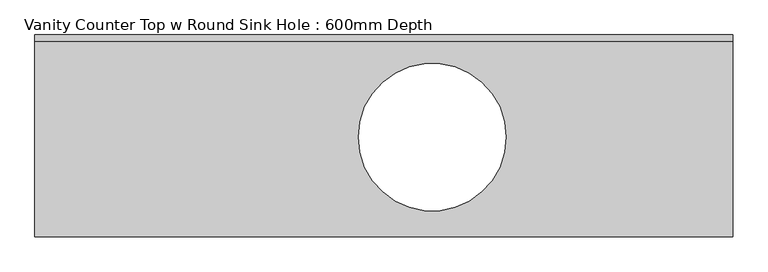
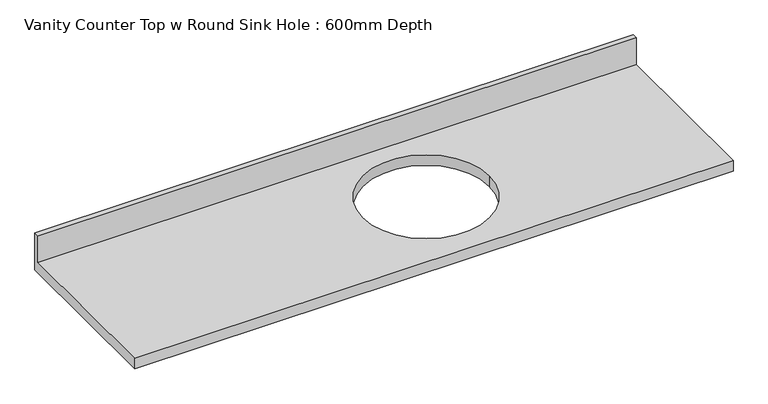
"""IFC4 building model written with IfcOpenShell, lengths in millimetres: furniture geometry, Vanity Counter Top w Round Sink Hole : 600mm Depth."""

from ifc_helpers import new_model, si_unit, frame, origin, place, context, project, spatial, polyline, circle_curve, source, transform, mapped, element, save
from ifc_brep_helpers import plane_surface, revolved_surface, advanced_brep


def vanity_counter_top_w_round_sink_hole_600mm_depth_8b8a0b6e(model_context):
    return source(origin(), model_context, "Body", "AdvancedBrep", [
        advanced_brep(
        [(-1327.4622951, 0.0, 851.6), (-1327.4622951, -19.05, 851.6), (832.5377049, -19.05, 851.6), (832.5377049, 0.0, 851.6), (-1327.4622951, 0.0, 710.0), (-1327.4622951, -625.0, 710.0), (-1327.4622951, -625.0, 750.0), (-1327.4622951, -19.05, 750.0), (832.5377049, -19.05, 750.0), (832.5377049, -625.0, 750.0), (832.5377049, -625.0, 710.0), (832.5377049, 0.0, 710.0), (131.2377049, -316.0, 750.0), (131.2377049, -316.0, 710.0), (-326.1622951, -316.0, 710.0), (-326.1622951, -316.0, 750.0)],
        [
            (0, 1),
            (1, 2),
            (2, 3),
            (3, 0),
            (0, 4),
            (4, 5),
            (5, 6),
            (6, 7),
            (7, 1),
            (7, 8),
            (8, 2),
            (8, 9),
            (9, 10),
            (10, 11),
            (11, 3),
            (11, 4),
            (12, 13),
            (13, 14, circle_curve(frame((-97.4622951, -316.0, 710.0), z_axis=(0.0, 0.0, -1.0), x_axis=(1.0, 0.0, 0.0)), 228.7)),
            (14, 15),
            (15, 12, circle_curve(frame((-97.4622951, -316.0, 750.0), z_axis=(0.0, 0.0, 1.0), x_axis=(1.0, 0.0, 0.0)), 228.7)),
            (12, 15, circle_curve(frame((-97.4622951, -316.0, 750.0), z_axis=(0.0, 0.0, 1.0), x_axis=(1.0, 0.0, 0.0)), 228.7)),
            (14, 13, circle_curve(frame((-97.4622951, -316.0, 710.0), z_axis=(0.0, 0.0, -1.0), x_axis=(1.0, 0.0, 0.0)), 228.7)),
            (6, 9),
            (10, 5),
        ],
        [
            plane_surface(frame((-1327.4622951, 0.0, 851.6), z_axis=(0.0, 0.0, 1.0), x_axis=(0.0, -1.0, 0.0))),
            plane_surface(frame((-1327.4622951, 0.0, 851.6), z_axis=(-1.0, 0.0, 0.0), x_axis=(0.0, 0.0, -1.0))),
            plane_surface(frame((-1327.4622951, -19.05, 851.6), z_axis=(0.0, -1.0, 0.0), x_axis=(0.0, 0.0, -1.0))),
            plane_surface(frame((832.5377049, -19.05, 851.6), z_axis=(1.0, 0.0, 0.0), x_axis=(0.0, 0.0, -1.0))),
            plane_surface(frame((832.5377049, 0.0, 851.6), z_axis=(0.0, 1.0, 0.0), x_axis=(0.0, 0.0, -1.0))),
            revolved_surface(polyline([(131.23770489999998, -316.0, 750.0), (131.23770489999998, -316.0, 710.0)]), (-97.4622951, -316.0, 710.0), (0.0, 0.0, 1.0)),
            plane_surface(frame((-1327.4622951, 0.0, 750.0), z_axis=(0.0, 0.0, 1.0), x_axis=(-1.0, 0.0, 0.0))),
            plane_surface(frame((-1327.4622951, 0.0, 710.0), z_axis=(0.0, 0.0, -1.0), x_axis=(1.0, 0.0, 0.0))),
            plane_surface(frame((-1327.4622951, -625.0, 750.0), z_axis=(0.0, -1.0, 0.0), x_axis=(0.0, 0.0, -1.0))),
        ],
        [
            (0, [[1, 2, 3, 4]]),
            (1, [[-1, 5, 6, 7, 8, 9]]),
            (2, [[-2, -9, 10, 11]]),
            (3, [[-3, -11, 12, 13, 14, 15]]),
            (4, [[-4, -15, 16, -5]]),
            (5, [[17, 18, 19, 20]]),
            (5, [[-17, 21, -19, 22]]),
            (6, [[23, -12, -10, -8], [-20, -21]]),
            (7, [[-14, 24, -6, -16], [-18, -22]]),
            (8, [[-23, -7, -24, -13]]),
        ],
    ),
    ])


if __name__ == "__main__":
    model = new_model("IFC4")
    model_context = context("Model", 3, world=origin())
    ifc_project = project(units=[si_unit("LENGTHUNIT", "METRE", prefix="MILLI")], contexts=[model_context])
    site = spatial("IfcSite", under=ifc_project)
    building = spatial("IfcBuilding", under=site)
    placement = place(None, origin())
    vanity_counter_top_w_round_sink_hole_600mm_depth_shape = vanity_counter_top_w_round_sink_hole_600mm_depth_8b8a0b6e(model_context)
    element("IfcFurniture", 1, ObjectType="Vanity Counter Top w Round Sink Hole : 600mm Depth", at=placement, inside=building, context=model_context, shape_type="MappedRepresentation", body=[
        mapped(vanity_counter_top_w_round_sink_hole_600mm_depth_shape, transform((0.0, 0.0, 0.0), x_axis=(1.0, 0.0, 0.0), y_axis=(0.0, 1.0, 0.0), z_axis=(0.0, 0.0, 1.0))),
    ])
    save(model, "model.ifc")
